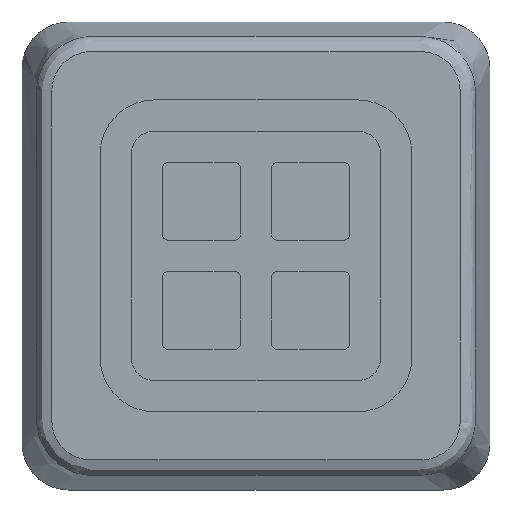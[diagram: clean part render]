
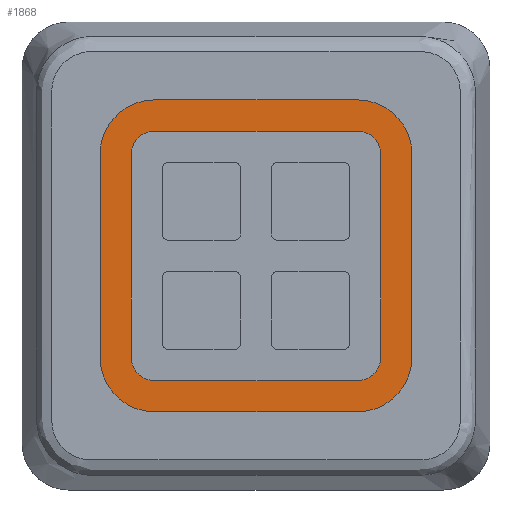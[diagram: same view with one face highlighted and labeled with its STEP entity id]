
A CAD part, top view. The second image highlights one B-rep face of the part: STEP entity #1868.
In plain terms, the highlighted planar face has unit normal (0, 0, 1).
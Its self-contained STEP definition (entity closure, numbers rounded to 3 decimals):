
#27=FACE_BOUND('',#268,.T.);
#45=CIRCLE('',#1974,0.75);
#47=CIRCLE('',#1978,0.75);
#49=CIRCLE('',#1982,0.75);
#51=CIRCLE('',#1986,0.75);
#53=CIRCLE('',#1990,1.75);
#55=CIRCLE('',#1994,1.75);
#57=CIRCLE('',#1998,1.75);
#59=CIRCLE('',#2002,1.75);
#158=FACE_OUTER_BOUND('',#267,.T.);
#267=EDGE_LOOP('',(#1320,#1321,#1322,#1323,#1324,#1325,#1326,#1327));
#268=EDGE_LOOP('',(#1328,#1329,#1330,#1331,#1332,#1333,#1334,#1335));
#378=LINE('',#2730,#579);
#383=LINE('',#2743,#584);
#387=LINE('',#2755,#588);
#391=LINE('',#2767,#592);
#394=LINE('',#2778,#595);
#399=LINE('',#2791,#600);
#403=LINE('',#2803,#604);
#407=LINE('',#2815,#608);
#579=VECTOR('',#2182,10.);
#584=VECTOR('',#2195,10.);
#588=VECTOR('',#2207,10.);
#592=VECTOR('',#2219,10.);
#595=VECTOR('',#2230,10.);
#600=VECTOR('',#2243,10.);
#604=VECTOR('',#2255,10.);
#608=VECTOR('',#2267,10.);
#780=VERTEX_POINT('',#2727);
#781=VERTEX_POINT('',#2729);
#783=VERTEX_POINT('',#2735);
#785=VERTEX_POINT('',#2741);
#787=VERTEX_POINT('',#2747);
#789=VERTEX_POINT('',#2753);
#791=VERTEX_POINT('',#2759);
#793=VERTEX_POINT('',#2765);
#796=VERTEX_POINT('',#2775);
#797=VERTEX_POINT('',#2777);
#799=VERTEX_POINT('',#2783);
#801=VERTEX_POINT('',#2789);
#803=VERTEX_POINT('',#2795);
#805=VERTEX_POINT('',#2801);
#807=VERTEX_POINT('',#2807);
#809=VERTEX_POINT('',#2813);
#966=EDGE_CURVE('',#780,#781,#378,.T.);
#970=EDGE_CURVE('',#783,#780,#45,.T.);
#973=EDGE_CURVE('',#785,#783,#383,.T.);
#976=EDGE_CURVE('',#787,#785,#47,.T.);
#979=EDGE_CURVE('',#789,#787,#387,.T.);
#982=EDGE_CURVE('',#791,#789,#49,.T.);
#985=EDGE_CURVE('',#793,#791,#391,.T.);
#987=EDGE_CURVE('',#781,#793,#51,.T.);
#990=EDGE_CURVE('',#796,#797,#394,.T.);
#994=EDGE_CURVE('',#799,#796,#53,.T.);
#997=EDGE_CURVE('',#801,#799,#399,.T.);
#1000=EDGE_CURVE('',#803,#801,#55,.T.);
#1003=EDGE_CURVE('',#805,#803,#403,.T.);
#1006=EDGE_CURVE('',#807,#805,#57,.T.);
#1009=EDGE_CURVE('',#809,#807,#407,.T.);
#1011=EDGE_CURVE('',#797,#809,#59,.T.);
#1320=ORIENTED_EDGE('',*,*,#1011,.F.);
#1321=ORIENTED_EDGE('',*,*,#990,.F.);
#1322=ORIENTED_EDGE('',*,*,#994,.F.);
#1323=ORIENTED_EDGE('',*,*,#997,.F.);
#1324=ORIENTED_EDGE('',*,*,#1000,.F.);
#1325=ORIENTED_EDGE('',*,*,#1003,.F.);
#1326=ORIENTED_EDGE('',*,*,#1006,.F.);
#1327=ORIENTED_EDGE('',*,*,#1009,.F.);
#1328=ORIENTED_EDGE('',*,*,#987,.F.);
#1329=ORIENTED_EDGE('',*,*,#966,.F.);
#1330=ORIENTED_EDGE('',*,*,#970,.F.);
#1331=ORIENTED_EDGE('',*,*,#973,.F.);
#1332=ORIENTED_EDGE('',*,*,#976,.F.);
#1333=ORIENTED_EDGE('',*,*,#979,.F.);
#1334=ORIENTED_EDGE('',*,*,#982,.F.);
#1335=ORIENTED_EDGE('',*,*,#985,.F.);
#1781=PLANE('',#2003);
#1868=ADVANCED_FACE('',(#158,#27),#1781,.T.);
#1974=AXIS2_PLACEMENT_3D('',#2737,#2189,#2190);
#1978=AXIS2_PLACEMENT_3D('',#2749,#2201,#2202);
#1982=AXIS2_PLACEMENT_3D('',#2761,#2213,#2214);
#1986=AXIS2_PLACEMENT_3D('',#2770,#2224,#2225);
#1990=AXIS2_PLACEMENT_3D('',#2785,#2237,#2238);
#1994=AXIS2_PLACEMENT_3D('',#2797,#2249,#2250);
#1998=AXIS2_PLACEMENT_3D('',#2809,#2261,#2262);
#2002=AXIS2_PLACEMENT_3D('',#2818,#2272,#2273);
#2003=AXIS2_PLACEMENT_3D('',#2819,#2274,#2275);
#2182=DIRECTION('',(-1.,0.,0.));
#2189=DIRECTION('center_axis',(0.,0.,1.));
#2190=DIRECTION('ref_axis',(1.,0.,0.));
#2195=DIRECTION('',(0.,1.,0.));
#2201=DIRECTION('center_axis',(0.,0.,1.));
#2202=DIRECTION('ref_axis',(0.,-1.,0.));
#2207=DIRECTION('',(1.,0.,0.));
#2213=DIRECTION('center_axis',(0.,0.,1.));
#2214=DIRECTION('ref_axis',(-1.,0.,0.));
#2219=DIRECTION('',(0.,-1.,0.));
#2224=DIRECTION('center_axis',(0.,0.,1.));
#2225=DIRECTION('ref_axis',(0.,1.,0.));
#2230=DIRECTION('',(0.,-1.,0.));
#2237=DIRECTION('center_axis',(0.,0.,-1.));
#2238=DIRECTION('ref_axis',(1.,0.,0.));
#2243=DIRECTION('',(1.,0.,0.));
#2249=DIRECTION('center_axis',(0.,0.,-1.));
#2250=DIRECTION('ref_axis',(0.,1.,0.));
#2255=DIRECTION('',(0.,1.,0.));
#2261=DIRECTION('center_axis',(0.,0.,-1.));
#2262=DIRECTION('ref_axis',(-1.,0.,0.));
#2267=DIRECTION('',(-1.,0.,0.));
#2272=DIRECTION('center_axis',(0.,0.,-1.));
#2273=DIRECTION('ref_axis',(0.,-1.,0.));
#2274=DIRECTION('center_axis',(0.,0.,1.));
#2275=DIRECTION('ref_axis',(1.,0.,0.));
#2727=CARTESIAN_POINT('',(69.25,32.5,25.3));
#2729=CARTESIAN_POINT('',(62.75,32.5,25.3));
#2730=CARTESIAN_POINT('',(62.75,32.5,25.3));
#2735=CARTESIAN_POINT('',(70.,31.75,25.3));
#2737=CARTESIAN_POINT('Origin',(69.25,31.75,25.3));
#2741=CARTESIAN_POINT('',(70.,25.25,25.3));
#2743=CARTESIAN_POINT('',(70.,31.75,25.3));
#2747=CARTESIAN_POINT('',(69.25,24.5,25.3));
#2749=CARTESIAN_POINT('Origin',(69.25,25.25,25.3));
#2753=CARTESIAN_POINT('',(62.75,24.5,25.3));
#2755=CARTESIAN_POINT('',(69.25,24.5,25.3));
#2759=CARTESIAN_POINT('',(62.,25.25,25.3));
#2761=CARTESIAN_POINT('Origin',(62.75,25.25,25.3));
#2765=CARTESIAN_POINT('',(62.,31.75,25.3));
#2767=CARTESIAN_POINT('',(62.,25.25,25.3));
#2770=CARTESIAN_POINT('Origin',(62.75,31.75,25.3));
#2775=CARTESIAN_POINT('',(71.,31.75,25.3));
#2777=CARTESIAN_POINT('',(71.,25.25,25.3));
#2778=CARTESIAN_POINT('',(71.,31.75,25.3));
#2783=CARTESIAN_POINT('',(69.25,33.5,25.3));
#2785=CARTESIAN_POINT('Origin',(69.25,31.75,25.3));
#2789=CARTESIAN_POINT('',(62.75,33.5,25.3));
#2791=CARTESIAN_POINT('',(62.75,33.5,25.3));
#2795=CARTESIAN_POINT('',(61.,31.75,25.3));
#2797=CARTESIAN_POINT('Origin',(62.75,31.75,25.3));
#2801=CARTESIAN_POINT('',(61.,25.25,25.3));
#2803=CARTESIAN_POINT('',(61.,25.25,25.3));
#2807=CARTESIAN_POINT('',(62.75,23.5,25.3));
#2809=CARTESIAN_POINT('Origin',(62.75,25.25,25.3));
#2813=CARTESIAN_POINT('',(69.25,23.5,25.3));
#2815=CARTESIAN_POINT('',(69.25,23.5,25.3));
#2818=CARTESIAN_POINT('Origin',(69.25,25.25,25.3));
#2819=CARTESIAN_POINT('Origin',(66.,28.5,25.3));
